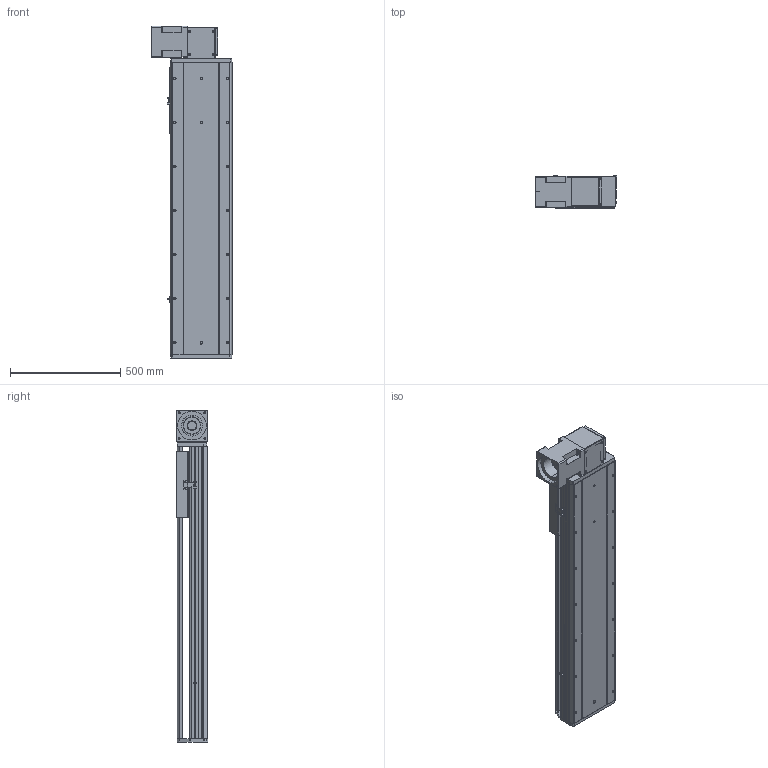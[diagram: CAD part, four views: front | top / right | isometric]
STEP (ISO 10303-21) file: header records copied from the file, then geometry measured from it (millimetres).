
FILE_DESCRIPTION (( 'STEP AP214' ), '1' );
FILE_NAME ('RTB28R-XX-900-BR-M100-XX-C4.STEP', '2025-12-22T01:09:42', ( '' ), ( '' ), 'SwSTEP 2.0', 'SolidWorks 2018', '' );
FILE_SCHEMA (( 'AUTOMOTIVE_DESIGN' ));
Length unit declared in the file: millimetre
Products named in the file (4): RTB28R-XX-900-BR-M100-XX-C4; RTB28S-GY-011^RTB28R-XX-XX-BR-M100-XX-C4; RTB28S-GY-008^RTB28R-XX-XX-BR-M100-XX-C4; RTB28S-GY-004^RTB28R-XX-XX-BR-M100-XX-C4
Assembly tree (3 placements, depth 2):
  RTB28R-XX-900-BR-M100-XX-C4
    RTB28S-GY-011^RTB28R-XX-XX-BR-M100-XX-C4
    RTB28S-GY-004^RTB28R-XX-XX-BR-M100-XX-C4
    RTB28S-GY-008^RTB28R-XX-XX-BR-M100-XX-C4
Bounding box: 370 x 145 x 1507 mm (x, y, z)
Volume: 28044968.3 mm3; surface area: 2718033 mm2
Topology: 3 solids, 4 shells, 978 faces, 2580 edges, 1656 vertices
Faces by surface type: plane 454, cylinder 353, bspline 87, cone 80, torus 4
Entity records: 41716 total; most frequent: CARTESIAN_POINT 11095, ORIENTED_EDGE 5096, DIRECTION 4932, EDGE_CURVE 2548, AXIS2_PLACEMENT_3D 1685, VERTEX_POINT 1656, VECTOR 1562, LINE 1562
